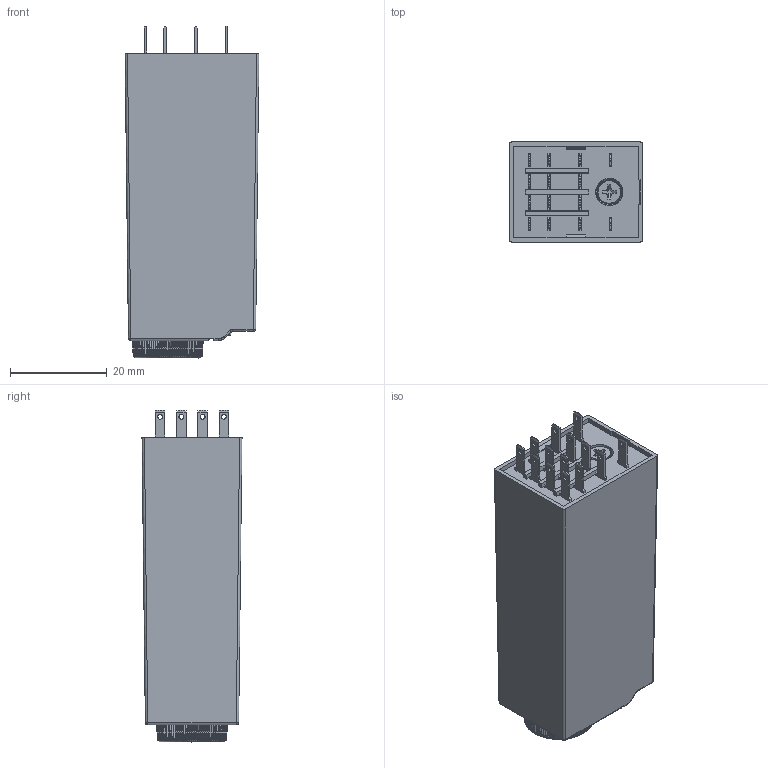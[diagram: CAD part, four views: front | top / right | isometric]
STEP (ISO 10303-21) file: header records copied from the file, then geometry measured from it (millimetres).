
FILE_DESCRIPTION(('STEP AP214'),'2;1');
FILE_NAME('8504.stp','2011-08-01T16:15:55',(''),(''),'2007.1.106','THINKDESIGN','');
FILE_SCHEMA(('AUTOMOTIVE_DESIGN'));
Products named in the file (1): None
Bounding box: 27.7 x 20.7 x 68.71 mm (x, y, z)
Surface area: 12506.9 mm2 (no closed solid volume)
Topology: 0 solids, 0 shells, 685 faces, 3645 edges, 3611 vertices
Faces by surface type: plane 438, bspline 154, cylinder 93
Full cylindrical faces by diameter (mm): 1 x14, 5 x1, 5.1 x1
Entity records: 39243 total; most frequent: CARTESIAN_POINT 15519, COMPOSITE_CURVE_SEGMENT 3642, DIRECTION 3414, TRIMMED_CURVE 2184, VECTOR 2082, LINE 2082, B_SPLINE_CURVE_WITH_KNOTS 978, STYLED_ITEM 686
